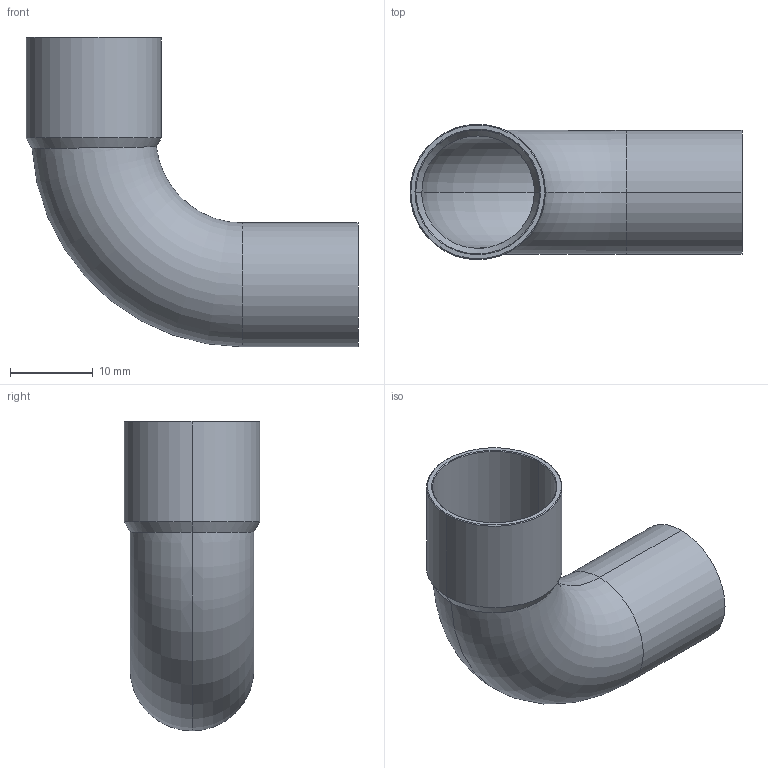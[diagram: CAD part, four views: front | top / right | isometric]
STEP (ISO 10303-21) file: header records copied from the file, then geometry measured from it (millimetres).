
FILE_DESCRIPTION((''),'2;1');
FILE_NAME('P:\Bouwmaten\z-maattekeningen 3D\5000\5001a\15001a15.stp','2005-10-04T14:33:34',('Kris'),(''),'Autodesk Inventor 8','Autodesk Inventor 8','');
FILE_SCHEMA(('AUTOMOTIVE_DESIGN { 1 0 10303 214 1 1 1 1 }'));
Length unit declared in the file: millimetre
Products named in the file (1): 15001a15
Bounding box: 40.2 x 16.4 x 37.5 mm (x, y, z)
Volume: 1751.5 mm3; surface area: 5065.8 mm2
Topology: 1 solids, 1 shells, 22 faces, 46 edges, 26 vertices
Faces by surface type: cone 8, cylinder 8, torus 4, plane 2
Entity records: 679 total; most frequent: CARTESIAN_POINT 171, DIRECTION 114, ORIENTED_EDGE 92, AXIS2_PLACEMENT_3D 49, EDGE_CURVE 46, VERTEX_POINT 26, CIRCLE 26, EDGE_LOOP 24
